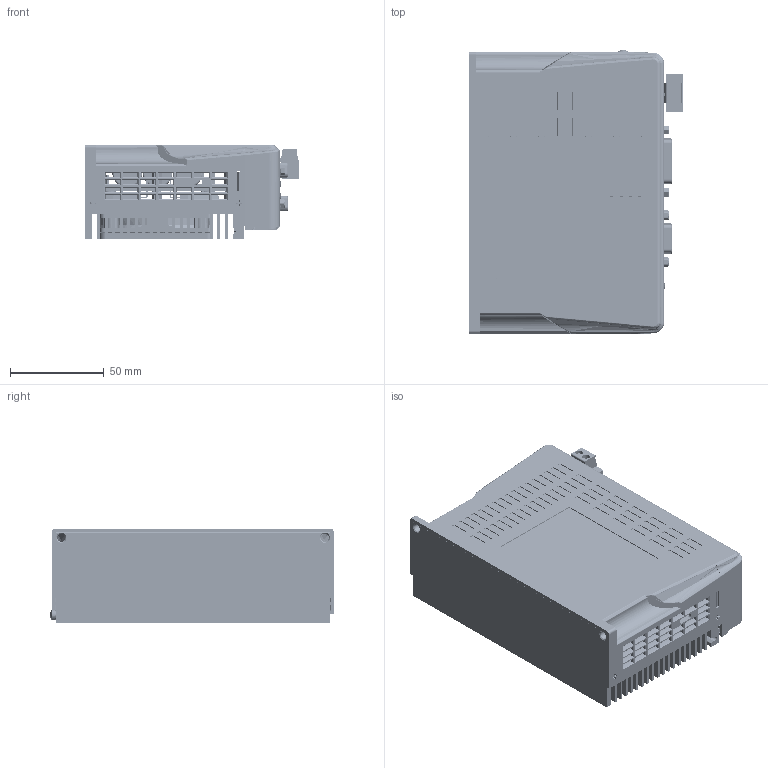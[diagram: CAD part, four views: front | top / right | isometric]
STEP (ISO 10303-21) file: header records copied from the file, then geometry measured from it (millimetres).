
FILE_DESCRIPTION (( 'STEP AP203' ), '1' );
FILE_NAME ('MCAC845.STEP', '2021-06-30T02:59:29', ( 'USER-' ), ( 'MS' ), 'SwSTEP 2.0', 'SolidWorks 2018', '' );
FILE_SCHEMA (( 'CONFIG_CONTROL_DESIGN' ));
Length unit declared in the file: millimetre
Products named in the file (84): MCAC845.sldasm-Part-40; MCAC845.sldasm-Part-81; MCAC845.sldasm-Part-32; MCAC845.sldasm-Part-73; MCAC845.sldasm-Part-24; MCAC845.sldasm-Part-65; MCAC845.sldasm-Part-16; MCAC845.sldasm-Part-57; MCAC845.sldasm-Part-8; MCAC845.sldasm-Part-49; MCAC845.sldasm-Part-41; MCAC845.sldasm-Part-82; MCAC845.sldasm-Part-33; MCAC845.sldasm-Part-74; MCAC845.sldasm-Part-25; MCAC845.sldasm-Part-66; MCAC845.sldasm-Part-17; MCAC845.sldasm-Part-58; MCAC845.sldasm-Part-9; MCAC845.sldasm-Part-50; MCAC845.sldasm-Part-1; MCAC845.sldasm-Part-42; MCAC845.sldasm-Part-83; MCAC845.sldasm-Part-34; MCAC845.sldasm-Part-75; MCAC845.sldasm-Part-26; MCAC845.sldasm-Part-67; MCAC845.sldasm-Part-18; MCAC845.sldasm-Part-59; MCAC845.sldasm-Part-10; MCAC845.sldasm-Part-51; MCAC845.sldasm-Part-2; MCAC845.sldasm-Part-43; MCAC845; MCAC845.sldasm-Part-35; MCAC845.sldasm-Part-76; MCAC845.sldasm-Part-27; MCAC845.sldasm-Part-68; MCAC845.sldasm-Part-19; MCAC845.sldasm-Part-60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
Assembly tree (83 placements, depth 2):
  MCAC845
    MCAC845.sldasm-Part-1
    MCAC845.sldasm-Part-2
    MCAC845.sldasm-Part-3
    MCAC845.sldasm-Part-4
    MCAC845.sldasm-Part-5
    MCAC845.sldasm-Part-6
    MCAC845.sldasm-Part-7
    MCAC845.sldasm-Part-8
    MCAC845.sldasm-Part-9
    MCAC845.sldasm-Part-10
    MCAC845.sldasm-Part-11
    MCAC845.sldasm-Part-12
    MCAC845.sldasm-Part-13
    MCAC845.sldasm-Part-14
    MCAC845.sldasm-Part-15
    MCAC845.sldasm-Part-16
    MCAC845.sldasm-Part-17
    MCAC845.sldasm-Part-18
    MCAC845.sldasm-Part-19
    MCAC845.sldasm-Part-20
    MCAC845.sldasm-Part-21
    MCAC845.sldasm-Part-22
    MCAC845.sldasm-Part-23
    MCAC845.sldasm-Part-24
    MCAC845.sldasm-Part-25
    MCAC845.sldasm-Part-26
    MCAC845.sldasm-Part-27
    MCAC845.sldasm-Part-28
    MCAC845.sldasm-Part-29
    MCAC845.sldasm-Part-30
    MCAC845.sldasm-Part-31
    MCAC845.sldasm-Part-32
    MCAC845.sldasm-Part-33
    MCAC845.sldasm-Part-34
    MCAC845.sldasm-Part-35
    MCAC845.sldasm-Part-36
    MCAC845.sldasm-Part-37
    MCAC845.sldasm-Part-38
    MCAC845.sldasm-Part-39
    MCAC845.sldasm-Part-40
    MCAC845.sldasm-Part-41
    MCAC845.sldasm-Part-42
    MCAC845.sldasm-Part-43
    MCAC845.sldasm-Part-44
    MCAC845.sldasm-Part-45
    MCAC845.sldasm-Part-46
    MCAC845.sldasm-Part-47
    MCAC845.sldasm-Part-48
    MCAC845.sldasm-Part-49
    MCAC845.sldasm-Part-50
    MCAC845.sldasm-Part-51
    MCAC845.sldasm-Part-52
    MCAC845.sldasm-Part-53
    MCAC845.sldasm-Part-54
    MCAC845.sldasm-Part-55
    MCAC845.sldasm-Part-56
    MCAC845.sldasm-Part-57
    MCAC845.sldasm-Part-58
    MCAC845.sldasm-Part-59
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Bounding box: 113.95 x 151.57 x 50.3 mm (x, y, z)
Volume: 292541.8 mm3; surface area: 284338.3 mm2
Topology: 83 solids, 97 shells, 9472 faces, 26091 edges, 16925 vertices
Faces by surface type: plane 4962, cylinder 2901, bspline 805, cone 519, torus 215, sphere 70
Entity records: 471420 total; most frequent: CARTESIAN_POINT 236231, ORIENTED_EDGE 51542, DIRECTION 41450, EDGE_CURVE 25771, VERTEX_POINT 16890, LINE 15606, VECTOR 15606, AXIS2_PLACEMENT_3D 12922
